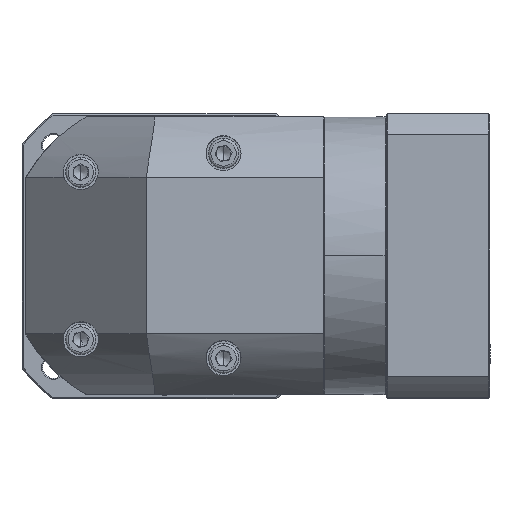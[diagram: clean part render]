
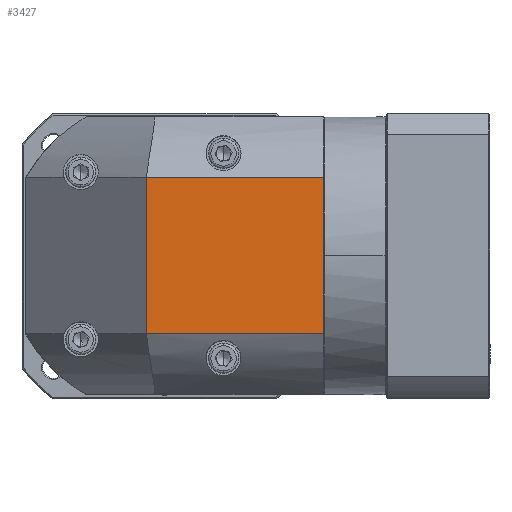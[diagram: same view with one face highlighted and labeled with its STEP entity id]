
A CAD part, top view. The second image highlights one B-rep face of the part: STEP entity #3427.
In plain terms, the highlighted planar face has unit normal (0, 0, 1).
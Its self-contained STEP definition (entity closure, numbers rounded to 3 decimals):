
#1340 = ORIENTED_EDGE ( 'NONE', *, *, #101061, .F. ) ;
#3427 = ADVANCED_FACE ( 'NONE', ( #132823 ), #14537, .F. ) ;
#14537 = PLANE ( 'NONE',  #98191 ) ;
#15853 = DIRECTION ( 'NONE',  ( 0., -1., 0. ) ) ;
#21250 = CARTESIAN_POINT ( 'NONE',  ( 31.073, 56.497, 97.205 ) ) ;
#30184 = LINE ( 'NONE', #78647, #96679 ) ;
#32457 = LINE ( 'NONE', #121493, #50292 ) ;
#39574 = LINE ( 'NONE', #58673, #72160 ) ;
#40178 = DIRECTION ( 'NONE',  ( 0., -1., 0. ) ) ;
#40413 = EDGE_CURVE ( 'NONE', #105029, #132241, #32457, .T. ) ;
#40609 = VECTOR ( 'NONE', #40178, 1000. ) ;
#43418 = ORIENTED_EDGE ( 'NONE', *, *, #128560, .F. ) ;
#47123 = LINE ( 'NONE', #122354, #40609 ) ;
#49791 = CARTESIAN_POINT ( 'NONE',  ( 31.073, 121.297, 97.205 ) ) ;
#50292 = VECTOR ( 'NONE', #111969, 1000. ) ;
#56583 = CARTESIAN_POINT ( 'NONE',  ( 38.573, 88.897, 97.205 ) ) ;
#58673 = CARTESIAN_POINT ( 'NONE',  ( -18.927, 56.497, 97.205 ) ) ;
#67080 = DIRECTION ( 'NONE',  ( 0., 0., -1. ) ) ;
#67926 = ORIENTED_EDGE ( 'NONE', *, *, #40413, .F. ) ;
#70954 = DIRECTION ( 'NONE',  ( -1., 0., 0. ) ) ;
#72160 = VECTOR ( 'NONE', #70954, 1000. ) ;
#78647 = CARTESIAN_POINT ( 'NONE',  ( 31.073, 146.397, 97.205 ) ) ;
#93959 = ORIENTED_EDGE ( 'NONE', *, *, #123603, .F. ) ;
#96679 = VECTOR ( 'NONE', #119047, 1000. ) ;
#98191 = AXIS2_PLACEMENT_3D ( 'NONE', #56583, #67080, #15853 ) ;
#101061 = EDGE_CURVE ( 'NONE', #116726, #127216, #39574, .T. ) ;
#105029 = VERTEX_POINT ( 'NONE', #49791 ) ;
#111969 = DIRECTION ( 'NONE',  ( 1., 0., 0. ) ) ;
#116726 = VERTEX_POINT ( 'NONE', #122704 ) ;
#117407 = EDGE_LOOP ( 'NONE', ( #67926, #43418, #1340, #93959 ) ) ;
#119047 = DIRECTION ( 'NONE',  ( 0., 1., 0. ) ) ;
#121493 = CARTESIAN_POINT ( 'NONE',  ( -18.927, 121.297, 97.205 ) ) ;
#122354 = CARTESIAN_POINT ( 'NONE',  ( 104.473, 146.397, 97.205 ) ) ;
#122704 = CARTESIAN_POINT ( 'NONE',  ( 104.473, 56.497, 97.205 ) ) ;
#123603 = EDGE_CURVE ( 'NONE', #132241, #116726, #47123, .T. ) ;
#127216 = VERTEX_POINT ( 'NONE', #21250 ) ;
#128560 = EDGE_CURVE ( 'NONE', #127216, #105029, #30184, .T. ) ;
#129415 = CARTESIAN_POINT ( 'NONE',  ( 104.473, 121.297, 97.205 ) ) ;
#132241 = VERTEX_POINT ( 'NONE', #129415 ) ;
#132823 = FACE_OUTER_BOUND ( 'NONE', #117407, .T. ) ;
